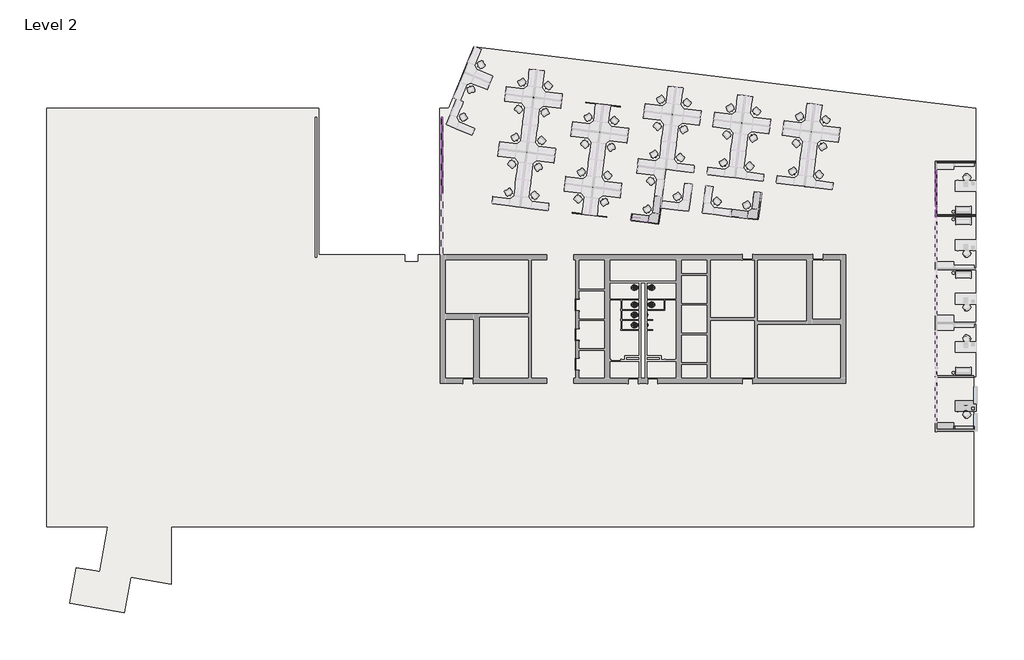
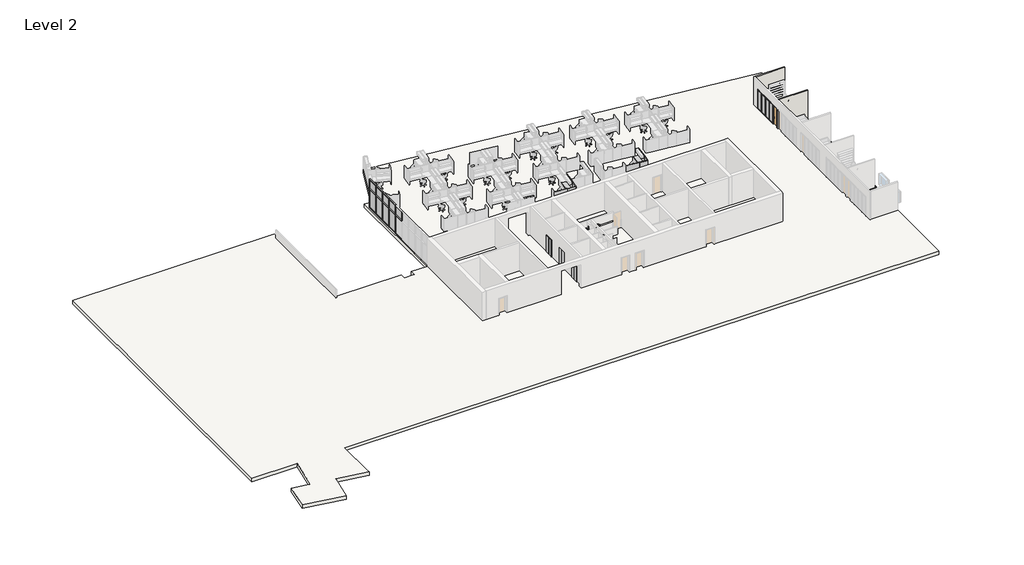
# One storey, part 4 of 7: 53 members, 18 plates, 8 flow terminals, 6 furniture elements, 3 proxies, 3 walls, 1 door, 1 slab.
"""IFC4 building model written with IfcOpenShell, lengths in millimetres."""

from ifc_helpers import new_model, si_unit, frame, origin, place, context, project, spatial, polyline, outline, extrude, faceted_brep, transform, mapped, element, save
from components import proxy_7fed659c, curtain_wall_sgl_glass_curtain_wall_sgl_glass_5192a5a3, flow_terminal_184afdea, flow_terminal_4365df9b, urinal_wall_3d_urinal_wall_3d_30f61b9e, furniture_894c625b, furniture_91cd4dc0, overhead_shelving_module_overhead_shelving_module_7dcda1b9, furniture_6d145fab, furniture_7b33082a, member_9597caa3, member_b2bde9e6, member_ee409385, member_7ffbafd8, member_47ea2df9, member_5507c937, member_0e55f5ff, member_6d48148e, member_7899ddbe, member_c64c2408, member_866a01fa, member_fbf8c6f0, member_13474e0d, member_d7472725, system_panel_glazed_f9de1280, system_panel_glazed_6896c6c0, system_panel_glazed_7f340023, system_panel_glazed_f79f5f4b, system_panel_glazed_02b69887, system_panel_glazed_e5c5d69c

model = new_model("IFC4")

# Units and contexts
model_context = context("Model", 3, world=origin())
ifc_project = project(units=[si_unit("LENGTHUNIT", "METRE", prefix="MILLI")], contexts=[model_context])

# Site, building, storey
site = spatial("IfcSite", under=ifc_project)
building = spatial("IfcBuilding", under=site)
storey = spatial("IfcBuildingStorey", under=building, Name="Level 2", Elevation=3657.6)

# Proxies
placement = place(None, origin())
proxy_shape = proxy_7fed659c(model_context)
element("IfcBuildingElementProxy", 1, Name="Elevator%20Door-Center[1] : 42\" x 84\"", ObjectType="Elevator%20Door-Center[1] : 42\" x 84\"", at=placement, inside=storey, context=model_context, shape_type="MappedRepresentation", body=[
    mapped(proxy_shape, transform((-20852.1285069, -7663.0747049, 3657.6), x_axis=(0.0, 1.0, 0.0), y_axis=(-1.0, 0.0, 0.0), z_axis=(0.0, 0.0, 1.0))),
])
element("IfcBuildingElementProxy", 2, Name="Elevator%20Door-Center[1] : 42\" x 84\"", ObjectType="Elevator%20Door-Center[1] : 42\" x 84\"", at=placement, inside=storey, context=model_context, shape_type="MappedRepresentation", body=[
    mapped(proxy_shape, transform((-20852.1285069, -10330.0747049, 3657.6), x_axis=(0.0, 1.0, 0.0), y_axis=(-1.0, 0.0, 0.0), z_axis=(0.0, 0.0, 1.0))),
])
element("IfcBuildingElementProxy", 3, Name="Elevator%20Door-Center[1] : 42\" x 84\"", ObjectType="Elevator%20Door-Center[1] : 42\" x 84\"", at=placement, inside=storey, context=model_context, shape_type="MappedRepresentation", body=[
    mapped(proxy_shape, transform((-20852.1285069, -12997.0747049, 3657.6), x_axis=(0.0, 1.0, 0.0), y_axis=(-1.0, 0.0, 0.0), z_axis=(0.0, 0.0, 1.0))),
])

# Door
curtain_wall_sgl_glass_curtain_wall_sgl_glass_shape = curtain_wall_sgl_glass_curtain_wall_sgl_glass_5192a5a3(model_context)
element("IfcDoor", 4, ObjectType="Curtain Wall Sgl Glass : Curtain Wall Sgl Glass", at=placement, inside=storey, context=model_context, shape_type="MappedRepresentation", body=[
    mapped(curtain_wall_sgl_glass_curtain_wall_sgl_glass_shape, transform((11449.2054088, 794.2100525, 3657.6), x_axis=(0.0, -1.0, 0.0), y_axis=(1.0, 0.0, 0.0), z_axis=(0.0, 0.0, 1.0))),
])

# Flow terminals
flow_terminal_shape = flow_terminal_184afdea(model_context)
element("IfcFlowTerminal", 5, ObjectType="Toilet-Commercial-Wall-3D : 15\" Seat Height", at=placement, inside=storey, context=model_context, shape_type="MappedRepresentation", body=[
    mapped(flow_terminal_shape, transform((-14687.1856498, -7335.0821954, 3657.6), x_axis=(0.0, -1.0, 0.0), y_axis=(1.0, 0.0, 0.0), z_axis=(0.0, 0.0, 1.0))),
])
element("IfcFlowTerminal", 6, ObjectType="Toilet-Commercial-Wall-3D : 15\" Seat Height", at=placement, inside=storey, context=model_context, shape_type="MappedRepresentation", body=[
    mapped(flow_terminal_shape, transform((-14687.1856498, -5795.2071954, 3657.6), x_axis=(0.0, -1.0, 0.0), y_axis=(1.0, 0.0, 0.0), z_axis=(0.0, 0.0, 1.0))),
])
flow_terminal_2_shape = flow_terminal_4365df9b(model_context)
element("IfcFlowTerminal", 7, ObjectType="Toilet-Commercial-Wall-3D : 15\" Seat Height", at=placement, inside=storey, context=model_context, shape_type="MappedRepresentation", body=[
    mapped(flow_terminal_2_shape, transform((-15195.1856498, -9163.8821954, 3657.6), x_axis=(0.0, -1.0, 0.0), y_axis=(1.0, 0.0, 0.0), z_axis=(0.0, 0.0, 1.0))),
])
element("IfcFlowTerminal", 8, ObjectType="Toilet-Commercial-Wall-3D : 15\" Seat Height", at=placement, inside=storey, context=model_context, shape_type="MappedRepresentation", body=[
    mapped(flow_terminal_2_shape, transform((-15195.1856498, -7335.0821954, 3657.6), x_axis=(0.0, -1.0, 0.0), y_axis=(1.0, 0.0, 0.0), z_axis=(0.0, 0.0, 1.0))),
])
element("IfcFlowTerminal", 9, ObjectType="Toilet-Commercial-Wall-3D : 15\" Seat Height", at=placement, inside=storey, context=model_context, shape_type="MappedRepresentation", body=[
    mapped(flow_terminal_2_shape, transform((-15195.1856498, -5795.2071954, 3657.6), x_axis=(0.0, -1.0, 0.0), y_axis=(1.0, 0.0, 0.0), z_axis=(0.0, 0.0, 1.0))),
])
element("IfcFlowTerminal", 10, ObjectType="Toilet-Commercial-Wall-3D : 15\" Seat Height", at=placement, inside=storey, context=model_context, shape_type="MappedRepresentation", body=[
    mapped(flow_terminal_2_shape, transform((-15195.1856498, -8249.4821954, 3657.6), x_axis=(0.0, -1.0, 0.0), y_axis=(1.0, 0.0, 0.0), z_axis=(0.0, 0.0, 1.0))),
])
urinal_wall_3d_urinal_wall_3d_shape = urinal_wall_3d_urinal_wall_3d_30f61b9e(model_context)
element("IfcFlowTerminal", 11, ObjectType="Urinal-Wall-3D : Urinal-Wall-3D", at=placement, inside=storey, context=model_context, shape_type="MappedRepresentation", body=[
    mapped(urinal_wall_3d_urinal_wall_3d_shape, transform((-14687.1856498, -9677.6027747, 3048.0), x_axis=(0.0, -1.0, 0.0), y_axis=(1.0, 0.0, 0.0), z_axis=(0.0, 0.0, 1.0))),
])
element("IfcFlowTerminal", 12, ObjectType="Urinal-Wall-3D : Urinal-Wall-3D", at=placement, inside=storey, context=model_context, shape_type="MappedRepresentation", body=[
    mapped(urinal_wall_3d_urinal_wall_3d_shape, transform((-14687.1856498, -8763.2027747, 3048.0), x_axis=(0.0, -1.0, 0.0), y_axis=(1.0, 0.0, 0.0), z_axis=(0.0, 0.0, 1.0))),
])

# Furniture
furniture_shape = furniture_894c625b(model_context)
element("IfcFurniture", 13, ObjectType="Credenza : 60\" x 24\"", at=placement, inside=storey, context=model_context, shape_type="MappedRepresentation", body=[
    mapped(furniture_shape, transform((12221.5111465, -18676.6574776, 3657.6), x_axis=(1.0, 0.0, 0.0), y_axis=(0.0, 1.0, 0.0), z_axis=(0.0, 0.0, 1.0))),
])
furniture_2_shape = furniture_91cd4dc0(model_context)
element("IfcFurniture", 14, ObjectType="Desk : 72\" x 36\"", at=placement, inside=storey, context=model_context, shape_type="MappedRepresentation", body=[
    mapped(furniture_2_shape, transform((13214.5054088, -16416.8858172, 3657.6), x_axis=(1.0, 0.0, 0.0), y_axis=(0.0, 1.0, 0.0), z_axis=(0.0, 0.0, 1.0))),
])
overhead_shelving_module_overhead_shelving_module_shape = overhead_shelving_module_overhead_shelving_module_7dcda1b9(model_context)
element("IfcFurniture", 15, ObjectType="Overhead Shelving Module : Overhead Shelving Module", at=placement, inside=storey, context=model_context, shape_type="MappedRepresentation", body=[
    mapped(overhead_shelving_module_overhead_shelving_module_shape, transform((-15035.7996968, -17.0868363, 3505.2), x_axis=(0.9925461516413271, -0.12186934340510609, 0.0), y_axis=(0.12186934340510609, 0.9925461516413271, 0.0), z_axis=(0.0, 0.0, 1.0))),
])
furniture_3_shape = furniture_6d145fab(model_context)
element("IfcFurniture", 16, ObjectType="Shelving : 96\" x 12\" x 84\"", at=placement, inside=storey, context=model_context, shape_type="MappedRepresentation", body=[
    mapped(furniture_3_shape, transform((13982.8554088, -19129.2771498, 3657.6), x_axis=(1.0, 0.0, 0.0), y_axis=(0.0, 1.0, 0.0), z_axis=(0.0, 0.0, 1.0))),
])
furniture_4_shape = furniture_7b33082a(model_context)
element("IfcFurniture", 17, ObjectType="Work Station Cubicle : 96\" x 96\"", at=placement, inside=storey, context=model_context, shape_type="MappedRepresentation", body=[
    mapped(furniture_4_shape, transform((-13005.6651945, -422.753661, 3657.6), x_axis=(0.12186934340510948, 0.9925461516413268, 0.0), y_axis=(-0.9925461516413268, 0.12186934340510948, 0.0), z_axis=(0.0, 0.0, 1.0))),
])
element("IfcFurniture", 18, ObjectType="Work Station Cubicle : 96\" x 96\"", at=placement, inside=storey, context=model_context, shape_type="MappedRepresentation", body=[
    mapped(furniture_4_shape, transform((-4053.6335534, -44.4423201, 3657.6), x_axis=(0.1218693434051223, 0.9925461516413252, 0.0), y_axis=(-0.9925461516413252, 0.1218693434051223, 0.0), z_axis=(0.0, 0.0, 1.0))),
])

# Members
member_shape = member_9597caa3(model_context)
element("IfcMember", 19, ObjectType="Rectangular Mullion : 2.5\" x 5\" rectangular", at=placement, inside=storey, context=model_context, shape_type="MappedRepresentation", body=[
    mapped(member_shape, transform((11449.2054088, 1195.5300525, 3721.1), x_axis=(0.0, 1.0, 0.0), y_axis=(1.0, 0.0, 0.0), z_axis=(0.0, 0.0, -1.0))),
])
element("IfcMember", 20, ObjectType="Rectangular Mullion : 2.5\" x 5\" rectangular", at=placement, inside=storey, context=model_context, shape_type="MappedRepresentation", body=[
    mapped(member_shape, transform((11449.2054088, 1998.1700525, 3721.1), x_axis=(0.0, 1.0, 0.0), y_axis=(1.0, 0.0, 0.0), z_axis=(0.0, 0.0, -1.0))),
])
element("IfcMember", 21, ObjectType="Rectangular Mullion : 2.5\" x 5\" rectangular", at=placement, inside=storey, context=model_context, shape_type="MappedRepresentation", body=[
    mapped(member_shape, transform((11449.2054088, 2800.8100525, 3721.1), x_axis=(0.0, 1.0, 0.0), y_axis=(1.0, 0.0, 0.0), z_axis=(0.0, 0.0, -1.0))),
])
element("IfcMember", 22, ObjectType="Rectangular Mullion : 2.5\" x 5\" rectangular", at=placement, inside=storey, context=model_context, shape_type="MappedRepresentation", body=[
    mapped(member_shape, transform((11449.2054088, 3603.4500525, 3721.1), x_axis=(0.0, 1.0, 0.0), y_axis=(1.0, 0.0, 0.0), z_axis=(0.0, 0.0, -1.0))),
])
element("IfcMember", 23, ObjectType="Rectangular Mullion : 2.5\" x 5\" rectangular", at=placement, inside=storey, context=model_context, shape_type="MappedRepresentation", body=[
    mapped(member_shape, transform((-33055.0142212, 7776.9452064, 3721.1), x_axis=(0.0, -1.0, 0.0), y_axis=(-1.0, 0.0, 0.0), z_axis=(0.0, 0.0, -1.0))),
])
element("IfcMember", 24, ObjectType="Rectangular Mullion : 2.5\" x 5\" rectangular", at=placement, inside=storey, context=model_context, shape_type="MappedRepresentation", body=[
    mapped(member_shape, transform((-33055.0142212, 6399.7007619, 3721.1), x_axis=(0.0, -1.0, 0.0), y_axis=(-1.0, 0.0, 0.0), z_axis=(0.0, 0.0, -1.0))),
])
element("IfcMember", 25, ObjectType="Rectangular Mullion : 2.5\" x 5\" rectangular", at=placement, inside=storey, context=model_context, shape_type="MappedRepresentation", body=[
    mapped(member_shape, transform((-33055.0142212, 5022.4563175, 3721.1), x_axis=(0.0, -1.0, 0.0), y_axis=(-1.0, 0.0, 0.0), z_axis=(0.0, 0.0, -1.0))),
])
element("IfcMember", 26, ObjectType="Rectangular Mullion : 2.5\" x 5\" rectangular", at=placement, inside=storey, context=model_context, shape_type="MappedRepresentation", body=[
    mapped(member_shape, transform((-33055.0142212, 3645.211873, 3721.1), x_axis=(0.0, -1.0, 0.0), y_axis=(-1.0, 0.0, 0.0), z_axis=(0.0, 0.0, -1.0))),
])
member_2_shape = member_b2bde9e6(model_context)
element("IfcMember", 27, ObjectType="Rectangular Mullion : 2.5\" x 5\" rectangular", at=placement, inside=storey, context=model_context, shape_type="MappedRepresentation", body=[
    mapped(member_2_shape, transform((11449.2054088, 4437.8400525, 3721.1), x_axis=(0.0, 1.0, 0.0), y_axis=(1.0, 0.0, 0.0), z_axis=(0.0, 0.0, -1.0))),
])
element("IfcMember", 28, ObjectType="Rectangular Mullion : 2.5\" x 5\" rectangular", at=placement, inside=storey, context=model_context, shape_type="MappedRepresentation", body=[
    mapped(member_2_shape, transform((-33055.0142212, 9154.1896508, 6096.0), x_axis=(0.0, 1.0, 0.0), y_axis=(-1.0, 0.0, 0.0), z_axis=(0.0, 0.0, 1.0))),
])
member_3_shape = member_ee409385(model_context)
element("IfcMember", 29, ObjectType="Rectangular Mullion : 2.5\" x 5\" rectangular", at=placement, inside=storey, context=model_context, shape_type="MappedRepresentation", body=[
    mapped(member_3_shape, transform((11449.2054088, 361.1400525, 6096.0), x_axis=(0.0, -1.0, 0.0), y_axis=(1.0, 0.0, 0.0), z_axis=(0.0, 0.0, 1.0))),
])
element("IfcMember", 30, ObjectType="Rectangular Mullion : 2.5\" x 5\" rectangular", at=placement, inside=storey, context=model_context, shape_type="MappedRepresentation", body=[
    mapped(member_3_shape, transform((11449.2054088, 221.4400525, 6096.0), x_axis=(0.0, 1.0, 0.0), y_axis=(-1.0, 0.0, 0.0), z_axis=(0.0, 0.0, 1.0))),
])
member_4_shape = member_7ffbafd8(model_context)
element("IfcMember", 31, ObjectType="Rectangular Mullion : 2.5\" x 5\" rectangular", at=placement, inside=storey, context=model_context, shape_type="MappedRepresentation", body=[
    mapped(member_4_shape, transform((11449.2054088, 4437.8400525, 6197.6), x_axis=(0.0, 0.0, 1.0), y_axis=(1.0, 0.0, 0.0), z_axis=(0.0, 1.0, 0.0))),
])
element("IfcMember", 32, ObjectType="Rectangular Mullion : 2.5\" x 5\" rectangular", at=placement, inside=storey, context=model_context, shape_type="MappedRepresentation", body=[
    mapped(member_4_shape, transform((11449.2054088, 1195.5300525, 6197.6), x_axis=(0.0, 0.0, 1.0), y_axis=(1.0, 0.0, 0.0), z_axis=(0.0, 1.0, 0.0))),
])
element("IfcMember", 33, ObjectType="Rectangular Mullion : 2.5\" x 5\" rectangular", at=placement, inside=storey, context=model_context, shape_type="MappedRepresentation", body=[
    mapped(member_4_shape, transform((11449.2054088, 1163.7800525, 3657.6), x_axis=(0.0, 0.0, -1.0), y_axis=(1.0, 0.0, 0.0), z_axis=(0.0, -1.0, 0.0))),
])
member_5_shape = member_47ea2df9(model_context)
element("IfcMember", 34, ObjectType="Rectangular Mullion : 2.5\" x 5\" rectangular", at=placement, inside=storey, context=model_context, shape_type="MappedRepresentation", body=[
    mapped(member_5_shape, transform((11449.2054088, 1998.1700525, 6096.0), x_axis=(0.0, 0.0, 1.0), y_axis=(1.0, 0.0, 0.0), z_axis=(0.0, 1.0, 0.0))),
])
element("IfcMember", 35, ObjectType="Rectangular Mullion : 2.5\" x 5\" rectangular", at=placement, inside=storey, context=model_context, shape_type="MappedRepresentation", body=[
    mapped(member_5_shape, transform((11449.2054088, 2800.8100525, 6096.0), x_axis=(0.0, 0.0, 1.0), y_axis=(1.0, 0.0, 0.0), z_axis=(0.0, 1.0, 0.0))),
])
element("IfcMember", 36, ObjectType="Rectangular Mullion : 2.5\" x 5\" rectangular", at=placement, inside=storey, context=model_context, shape_type="MappedRepresentation", body=[
    mapped(member_5_shape, transform((11449.2054088, 3603.4500525, 6096.0), x_axis=(0.0, 0.0, 1.0), y_axis=(1.0, 0.0, 0.0), z_axis=(0.0, 1.0, 0.0))),
])
member_6_shape = member_5507c937(model_context)
element("IfcMember", 37, ObjectType="Rectangular Mullion : 2.5\" x 5\" rectangular", at=placement, inside=storey, context=model_context, shape_type="MappedRepresentation", body=[
    mapped(member_6_shape, transform((11449.2054088, 1998.1700525, 6197.6), x_axis=(0.0, 0.0, 1.0), y_axis=(1.0, 0.0, 0.0), z_axis=(0.0, 1.0, 0.0))),
])
element("IfcMember", 38, ObjectType="Rectangular Mullion : 2.5\" x 5\" rectangular", at=placement, inside=storey, context=model_context, shape_type="MappedRepresentation", body=[
    mapped(member_6_shape, transform((11449.2054088, 2800.8100525, 6197.6), x_axis=(0.0, 0.0, 1.0), y_axis=(1.0, 0.0, 0.0), z_axis=(0.0, 1.0, 0.0))),
])
element("IfcMember", 39, ObjectType="Rectangular Mullion : 2.5\" x 5\" rectangular", at=placement, inside=storey, context=model_context, shape_type="MappedRepresentation", body=[
    mapped(member_6_shape, transform((11449.2054088, 3603.4500525, 6197.6), x_axis=(0.0, 0.0, 1.0), y_axis=(1.0, 0.0, 0.0), z_axis=(0.0, 1.0, 0.0))),
])
element("IfcMember", 40, ObjectType="Rectangular Mullion : 2.5\" x 5\" rectangular", at=placement, inside=storey, context=model_context, shape_type="MappedRepresentation", body=[
    mapped(member_6_shape, transform((11449.2054088, 1998.1700525, 3657.6), x_axis=(0.0, 0.0, -1.0), y_axis=(1.0, 0.0, 0.0), z_axis=(0.0, -1.0, 0.0))),
])
element("IfcMember", 41, ObjectType="Rectangular Mullion : 2.5\" x 5\" rectangular", at=placement, inside=storey, context=model_context, shape_type="MappedRepresentation", body=[
    mapped(member_6_shape, transform((11449.2054088, 2800.8100525, 3657.6), x_axis=(0.0, 0.0, -1.0), y_axis=(1.0, 0.0, 0.0), z_axis=(0.0, -1.0, 0.0))),
])
element("IfcMember", 42, ObjectType="Rectangular Mullion : 2.5\" x 5\" rectangular", at=placement, inside=storey, context=model_context, shape_type="MappedRepresentation", body=[
    mapped(member_4_shape, transform((11449.2054088, 3603.4500525, 3657.6), x_axis=(0.0, 0.0, -1.0), y_axis=(1.0, 0.0, 0.0), z_axis=(0.0, -1.0, 0.0))),
])
member_7_shape = member_0e55f5ff(model_context)
element("IfcMember", 43, ObjectType="Rectangular Mullion : 2.5\" x 5\" rectangular", at=placement, inside=storey, context=model_context, shape_type="MappedRepresentation", body=[
    mapped(member_7_shape, transform((11449.2054088, 4374.3400525, 6096.0), x_axis=(0.0, 0.0, 1.0), y_axis=(1.0, 0.0, 0.0), z_axis=(0.0, 1.0, 0.0))),
])
element("IfcMember", 44, ObjectType="Rectangular Mullion : 2.5\" x 5\" rectangular", at=placement, inside=storey, context=model_context, shape_type="MappedRepresentation", body=[
    mapped(member_7_shape, transform((11449.2054088, 1195.5300525, 6096.0), x_axis=(0.0, 0.0, 1.0), y_axis=(1.0, 0.0, 0.0), z_axis=(0.0, 1.0, 0.0))),
])
member_8_shape = member_6d48148e(model_context)
element("IfcMember", 45, ObjectType="Rectangular Mullion : 2.5\" x 5\" rectangular", at=placement, inside=storey, context=model_context, shape_type="MappedRepresentation", body=[
    mapped(member_8_shape, transform((11449.2054088, 1195.5300525, 6127.75), x_axis=(0.0, 1.0, 0.0), y_axis=(1.0, 0.0, 0.0), z_axis=(0.0, 0.0, -1.0))),
])
element("IfcMember", 46, ObjectType="Rectangular Mullion : 2.5\" x 5\" rectangular", at=placement, inside=storey, context=model_context, shape_type="MappedRepresentation", body=[
    mapped(member_8_shape, transform((11449.2054088, 1998.1700525, 6127.75), x_axis=(0.0, 1.0, 0.0), y_axis=(1.0, 0.0, 0.0), z_axis=(0.0, 0.0, -1.0))),
])
element("IfcMember", 47, ObjectType="Rectangular Mullion : 2.5\" x 5\" rectangular", at=placement, inside=storey, context=model_context, shape_type="MappedRepresentation", body=[
    mapped(member_8_shape, transform((11449.2054088, 2800.8100525, 6127.75), x_axis=(0.0, 1.0, 0.0), y_axis=(1.0, 0.0, 0.0), z_axis=(0.0, 0.0, -1.0))),
])
element("IfcMember", 48, ObjectType="Rectangular Mullion : 2.5\" x 5\" rectangular", at=placement, inside=storey, context=model_context, shape_type="MappedRepresentation", body=[
    mapped(member_8_shape, transform((11449.2054088, 3603.4500525, 6127.75), x_axis=(0.0, 1.0, 0.0), y_axis=(1.0, 0.0, 0.0), z_axis=(0.0, 0.0, -1.0))),
])
member_9_shape = member_7899ddbe(model_context)
element("IfcMember", 49, ObjectType="Rectangular Mullion : 2.5\" x 5\" rectangular", at=placement, inside=storey, context=model_context, shape_type="MappedRepresentation", body=[
    mapped(member_9_shape, transform((11449.2054088, 4437.8400525, 6096.0), x_axis=(0.0, 1.0, 0.0), y_axis=(1.0, 0.0, 0.0), z_axis=(0.0, 0.0, -1.0))),
])
element("IfcMember", 50, ObjectType="Rectangular Mullion : 2.5\" x 5\" rectangular", at=placement, inside=storey, context=model_context, shape_type="MappedRepresentation", body=[
    mapped(member_9_shape, transform((11449.2054088, 361.1400525, 6134.1), x_axis=(0.0, -1.0, 0.0), y_axis=(1.0, 0.0, 0.0), z_axis=(0.0, 0.0, 1.0))),
])
element("IfcMember", 51, ObjectType="Rectangular Mullion : 2.5\" x 5\" rectangular", at=placement, inside=storey, context=model_context, shape_type="MappedRepresentation", body=[
    mapped(member_9_shape, transform((11449.2054088, 221.4400525, 6134.1), x_axis=(0.0, 1.0, 0.0), y_axis=(-1.0, 0.0, 0.0), z_axis=(0.0, 0.0, 1.0))),
])
member_10_shape = member_c64c2408(model_context)
element("IfcMember", 52, ObjectType="Rectangular Mullion : 2.5\" x 5\" rectangular", at=placement, inside=storey, context=model_context, shape_type="MappedRepresentation", body=[
    mapped(member_10_shape, transform((-33055.0142212, 9154.1896508, 3657.6), x_axis=(0.0, 0.0, -1.0), y_axis=(-1.0, 0.0, 0.0), z_axis=(0.0, 1.0, 0.0))),
])
element("IfcMember", 53, ObjectType="Rectangular Mullion : 2.5\" x 5\" rectangular", at=placement, inside=storey, context=model_context, shape_type="MappedRepresentation", body=[
    mapped(member_10_shape, transform((-33055.0142212, 7776.9452064, 7315.2), x_axis=(0.0, 0.0, 1.0), y_axis=(-1.0, 0.0, 0.0), z_axis=(0.0, -1.0, 0.0))),
])
element("IfcMember", 54, ObjectType="Rectangular Mullion : 2.5\" x 5\" rectangular", at=placement, inside=storey, context=model_context, shape_type="MappedRepresentation", body=[
    mapped(member_10_shape, transform((-33055.0142212, 6399.7007619, 7315.2), x_axis=(0.0, 0.0, 1.0), y_axis=(-1.0, 0.0, 0.0), z_axis=(0.0, -1.0, 0.0))),
])
element("IfcMember", 55, ObjectType="Rectangular Mullion : 2.5\" x 5\" rectangular", at=placement, inside=storey, context=model_context, shape_type="MappedRepresentation", body=[
    mapped(member_10_shape, transform((-33055.0142212, 5022.4563175, 7315.2), x_axis=(0.0, 0.0, 1.0), y_axis=(-1.0, 0.0, 0.0), z_axis=(0.0, -1.0, 0.0))),
])
element("IfcMember", 56, ObjectType="Rectangular Mullion : 2.5\" x 5\" rectangular", at=placement, inside=storey, context=model_context, shape_type="MappedRepresentation", body=[
    mapped(member_10_shape, transform((-33055.0142212, 3645.211873, 7315.2), x_axis=(0.0, 0.0, 1.0), y_axis=(-1.0, 0.0, 0.0), z_axis=(0.0, -1.0, 0.0))),
])
element("IfcMember", 57, ObjectType="Rectangular Mullion : 2.5\" x 5\" rectangular", at=placement, inside=storey, context=model_context, shape_type="MappedRepresentation", body=[
    mapped(member_10_shape, transform((-33055.0142212, 7776.9452064, 3657.6), x_axis=(0.0, 0.0, -1.0), y_axis=(-1.0, 0.0, 0.0), z_axis=(0.0, 1.0, 0.0))),
])
element("IfcMember", 58, ObjectType="Rectangular Mullion : 2.5\" x 5\" rectangular", at=placement, inside=storey, context=model_context, shape_type="MappedRepresentation", body=[
    mapped(member_10_shape, transform((-33055.0142212, 6399.7007619, 3657.6), x_axis=(0.0, 0.0, -1.0), y_axis=(-1.0, 0.0, 0.0), z_axis=(0.0, 1.0, 0.0))),
])
element("IfcMember", 59, ObjectType="Rectangular Mullion : 2.5\" x 5\" rectangular", at=placement, inside=storey, context=model_context, shape_type="MappedRepresentation", body=[
    mapped(member_10_shape, transform((-33055.0142212, 5022.4563175, 3657.6), x_axis=(0.0, 0.0, -1.0), y_axis=(-1.0, 0.0, 0.0), z_axis=(0.0, 1.0, 0.0))),
])
element("IfcMember", 60, ObjectType="Rectangular Mullion : 2.5\" x 5\" rectangular", at=placement, inside=storey, context=model_context, shape_type="MappedRepresentation", body=[
    mapped(member_10_shape, transform((-33055.0142212, 3645.211873, 3657.6), x_axis=(0.0, 0.0, -1.0), y_axis=(-1.0, 0.0, 0.0), z_axis=(0.0, 1.0, 0.0))),
])
member_11_shape = member_866a01fa(model_context)
element("IfcMember", 61, ObjectType="Rectangular Mullion : 2.5\" x 5\" rectangular", at=placement, inside=storey, context=model_context, shape_type="MappedRepresentation", body=[
    mapped(member_11_shape, transform((-33055.0142212, 7776.9452064, 6127.75), x_axis=(0.0, -1.0, 0.0), y_axis=(-1.0, 0.0, 0.0), z_axis=(0.0, 0.0, -1.0))),
])
element("IfcMember", 62, ObjectType="Rectangular Mullion : 2.5\" x 5\" rectangular", at=placement, inside=storey, context=model_context, shape_type="MappedRepresentation", body=[
    mapped(member_11_shape, transform((-33055.0142212, 6399.7007619, 6127.75), x_axis=(0.0, -1.0, 0.0), y_axis=(-1.0, 0.0, 0.0), z_axis=(0.0, 0.0, -1.0))),
])
element("IfcMember", 63, ObjectType="Rectangular Mullion : 2.5\" x 5\" rectangular", at=placement, inside=storey, context=model_context, shape_type="MappedRepresentation", body=[
    mapped(member_11_shape, transform((-33055.0142212, 5022.4563175, 6127.75), x_axis=(0.0, -1.0, 0.0), y_axis=(-1.0, 0.0, 0.0), z_axis=(0.0, 0.0, -1.0))),
])
element("IfcMember", 64, ObjectType="Rectangular Mullion : 2.5\" x 5\" rectangular", at=placement, inside=storey, context=model_context, shape_type="MappedRepresentation", body=[
    mapped(member_11_shape, transform((-33055.0142212, 3645.211873, 6127.75), x_axis=(0.0, -1.0, 0.0), y_axis=(-1.0, 0.0, 0.0), z_axis=(0.0, 0.0, -1.0))),
])
element("IfcMember", 65, ObjectType="Rectangular Mullion : 2.5\" x 5\" rectangular", at=placement, inside=storey, context=model_context, shape_type="MappedRepresentation", body=[
    mapped(member_11_shape, transform((-33055.0142212, 2267.9674286, 6127.75), x_axis=(0.0, -1.0, 0.0), y_axis=(-1.0, 0.0, 0.0), z_axis=(0.0, 0.0, -1.0))),
])
member_12_shape = member_fbf8c6f0(model_context)
element("IfcMember", 66, ObjectType="Rectangular Mullion : 2.5\" x 5\" rectangular", at=placement, inside=storey, context=model_context, shape_type="MappedRepresentation", body=[
    mapped(member_12_shape, transform((-33055.0142212, 7776.9452064, 6096.0), x_axis=(0.0, 0.0, 1.0), y_axis=(-1.0, 0.0, 0.0), z_axis=(0.0, -1.0, 0.0))),
])
member_13_shape = member_13474e0d(model_context)
element("IfcMember", 67, ObjectType="Rectangular Mullion : 2.5\" x 5\" rectangular", at=placement, inside=storey, context=model_context, shape_type="MappedRepresentation", body=[
    mapped(member_13_shape, transform((-33055.0142212, 6399.7007619, 6096.0), x_axis=(0.0, 0.0, 1.0), y_axis=(-1.0, 0.0, 0.0), z_axis=(0.0, -1.0, 0.0))),
])
element("IfcMember", 68, ObjectType="Rectangular Mullion : 2.5\" x 5\" rectangular", at=placement, inside=storey, context=model_context, shape_type="MappedRepresentation", body=[
    mapped(member_13_shape, transform((-33055.0142212, 5022.4563175, 6096.0), x_axis=(0.0, 0.0, 1.0), y_axis=(-1.0, 0.0, 0.0), z_axis=(0.0, -1.0, 0.0))),
])
element("IfcMember", 69, ObjectType="Rectangular Mullion : 2.5\" x 5\" rectangular", at=placement, inside=storey, context=model_context, shape_type="MappedRepresentation", body=[
    mapped(member_13_shape, transform((-33055.0142212, 3645.211873, 6096.0), x_axis=(0.0, 0.0, 1.0), y_axis=(-1.0, 0.0, 0.0), z_axis=(0.0, -1.0, 0.0))),
])
element("IfcMember", 70, ObjectType="Rectangular Mullion : 2.5\" x 5\" rectangular", at=placement, inside=storey, context=model_context, shape_type="MappedRepresentation", body=[
    mapped(member_13_shape, transform((-33055.0142212, 2267.9674286, 6096.0), x_axis=(0.0, 0.0, 1.0), y_axis=(-1.0, 0.0, 0.0), z_axis=(0.0, -1.0, 0.0))),
])
member_14_shape = member_d7472725(model_context)
element("IfcMember", 71, ObjectType="Rectangular Mullion : 2.5\" x 5\" rectangular", at=placement, inside=storey, context=model_context, shape_type="MappedRepresentation", body=[
    mapped(member_14_shape, transform((-33055.0142212, 9154.1896508, 7251.7), x_axis=(0.0, 1.0, 0.0), y_axis=(-1.0, 0.0, 0.0), z_axis=(0.0, 0.0, 1.0))),
])

# Plates
system_panel_glazed_shape = system_panel_glazed_f9de1280(model_context)
element("IfcPlate", 72, ObjectType="System Panel : Glazed", at=placement, inside=storey, context=model_context, shape_type="MappedRepresentation", body=[
    mapped(system_panel_glazed_shape, transform((11449.2054088, 1596.8500525, 3721.1), x_axis=(0.0, 1.0, 0.0), y_axis=(-1.0, 0.0, 0.0), z_axis=(0.0, 0.0, 1.0))),
])
element("IfcPlate", 73, ObjectType="System Panel : Glazed", at=placement, inside=storey, context=model_context, shape_type="MappedRepresentation", body=[
    mapped(system_panel_glazed_shape, transform((11449.2054088, 2399.4900525, 3721.1), x_axis=(0.0, 1.0, 0.0), y_axis=(-1.0, 0.0, 0.0), z_axis=(0.0, 0.0, 1.0))),
])
element("IfcPlate", 74, ObjectType="System Panel : Glazed", at=placement, inside=storey, context=model_context, shape_type="MappedRepresentation", body=[
    mapped(system_panel_glazed_shape, transform((11449.2054088, 3202.1300525, 3721.1), x_axis=(0.0, 1.0, 0.0), y_axis=(-1.0, 0.0, 0.0), z_axis=(0.0, 0.0, 1.0))),
])
element("IfcPlate", 75, ObjectType="System Panel : Glazed", at=placement, inside=storey, context=model_context, shape_type="MappedRepresentation", body=[
    mapped(system_panel_glazed_shape, transform((11449.2054088, 4004.7700525, 3721.1), x_axis=(0.0, 1.0, 0.0), y_axis=(-1.0, 0.0, 0.0), z_axis=(0.0, 0.0, 1.0))),
])
system_panel_glazed_2_shape = system_panel_glazed_6896c6c0(model_context)
element("IfcPlate", 76, ObjectType="System Panel : Glazed", at=placement, inside=storey, context=model_context, shape_type="MappedRepresentation", body=[
    mapped(system_panel_glazed_2_shape, transform((11449.2054088, 794.2100525, 6127.75), x_axis=(0.0, 1.0, 0.0), y_axis=(-1.0, 0.0, 0.0), z_axis=(0.0, 0.0, 1.0))),
])
element("IfcPlate", 77, ObjectType="System Panel : Glazed", at=placement, inside=storey, context=model_context, shape_type="MappedRepresentation", body=[
    mapped(system_panel_glazed_2_shape, transform((11449.2054088, 1596.8500525, 6127.75), x_axis=(0.0, 1.0, 0.0), y_axis=(-1.0, 0.0, 0.0), z_axis=(0.0, 0.0, 1.0))),
])
element("IfcPlate", 78, ObjectType="System Panel : Glazed", at=placement, inside=storey, context=model_context, shape_type="MappedRepresentation", body=[
    mapped(system_panel_glazed_2_shape, transform((11449.2054088, 2399.4900525, 6127.75), x_axis=(0.0, 1.0, 0.0), y_axis=(-1.0, 0.0, 0.0), z_axis=(0.0, 0.0, 1.0))),
])
element("IfcPlate", 79, ObjectType="System Panel : Glazed", at=placement, inside=storey, context=model_context, shape_type="MappedRepresentation", body=[
    mapped(system_panel_glazed_2_shape, transform((11449.2054088, 3202.1300525, 6127.75), x_axis=(0.0, 1.0, 0.0), y_axis=(-1.0, 0.0, 0.0), z_axis=(0.0, 0.0, 1.0))),
])
element("IfcPlate", 80, ObjectType="System Panel : Glazed", at=placement, inside=storey, context=model_context, shape_type="MappedRepresentation", body=[
    mapped(system_panel_glazed_2_shape, transform((11449.2054088, 4004.7700525, 6127.75), x_axis=(0.0, 1.0, 0.0), y_axis=(-1.0, 0.0, 0.0), z_axis=(0.0, 0.0, 1.0))),
])
system_panel_glazed_3_shape = system_panel_glazed_7f340023(model_context)
element("IfcPlate", 81, ObjectType="System Panel : Glazed", at=placement, inside=storey, context=model_context, shape_type="MappedRepresentation", body=[
    mapped(system_panel_glazed_3_shape, transform((-33055.0142212, 8449.6924286, 3721.1), x_axis=(0.0, -1.0, 0.0), y_axis=(1.0, 0.0, 0.0), z_axis=(0.0, 0.0, 1.0))),
])
system_panel_glazed_4_shape = system_panel_glazed_f79f5f4b(model_context)
element("IfcPlate", 82, ObjectType="System Panel : Glazed", at=placement, inside=storey, context=model_context, shape_type="MappedRepresentation", body=[
    mapped(system_panel_glazed_4_shape, transform((-33055.0142212, 7088.3229841, 3721.1), x_axis=(0.0, -1.0, 0.0), y_axis=(1.0, 0.0, 0.0), z_axis=(0.0, 0.0, 1.0))),
])
element("IfcPlate", 83, ObjectType="System Panel : Glazed", at=placement, inside=storey, context=model_context, shape_type="MappedRepresentation", body=[
    mapped(system_panel_glazed_4_shape, transform((-33055.0142212, 5711.0785397, 3721.1), x_axis=(0.0, -1.0, 0.0), y_axis=(1.0, 0.0, 0.0), z_axis=(0.0, 0.0, 1.0))),
])
element("IfcPlate", 84, ObjectType="System Panel : Glazed", at=placement, inside=storey, context=model_context, shape_type="MappedRepresentation", body=[
    mapped(system_panel_glazed_4_shape, transform((-33055.0142212, 4333.8340952, 3721.1), x_axis=(0.0, -1.0, 0.0), y_axis=(1.0, 0.0, 0.0), z_axis=(0.0, 0.0, 1.0))),
])
system_panel_glazed_5_shape = system_panel_glazed_02b69887(model_context)
element("IfcPlate", 85, ObjectType="System Panel : Glazed", at=placement, inside=storey, context=model_context, shape_type="MappedRepresentation", body=[
    mapped(system_panel_glazed_5_shape, transform((-33055.0142212, 8449.6924286, 6127.75), x_axis=(0.0, -1.0, 0.0), y_axis=(1.0, 0.0, 0.0), z_axis=(0.0, 0.0, 1.0))),
])
system_panel_glazed_6_shape = system_panel_glazed_e5c5d69c(model_context)
element("IfcPlate", 86, ObjectType="System Panel : Glazed", at=placement, inside=storey, context=model_context, shape_type="MappedRepresentation", body=[
    mapped(system_panel_glazed_6_shape, transform((-33055.0142212, 7088.3229841, 6127.75), x_axis=(0.0, -1.0, 0.0), y_axis=(1.0, 0.0, 0.0), z_axis=(0.0, 0.0, 1.0))),
])
element("IfcPlate", 87, ObjectType="System Panel : Glazed", at=placement, inside=storey, context=model_context, shape_type="MappedRepresentation", body=[
    mapped(system_panel_glazed_6_shape, transform((-33055.0142212, 5711.0785397, 6127.75), x_axis=(0.0, -1.0, 0.0), y_axis=(1.0, 0.0, 0.0), z_axis=(0.0, 0.0, 1.0))),
])
element("IfcPlate", 88, ObjectType="System Panel : Glazed", at=placement, inside=storey, context=model_context, shape_type="MappedRepresentation", body=[
    mapped(system_panel_glazed_6_shape, transform((-33055.0142212, 4333.8340952, 6127.75), x_axis=(0.0, -1.0, 0.0), y_axis=(1.0, 0.0, 0.0), z_axis=(0.0, 0.0, 1.0))),
])
element("IfcPlate", 89, ObjectType="System Panel : Glazed", at=placement, inside=storey, context=model_context, shape_type="MappedRepresentation", body=[
    mapped(system_panel_glazed_6_shape, transform((-33055.0142212, 2956.5896508, 6127.75), x_axis=(0.0, -1.0, 0.0), y_axis=(1.0, 0.0, 0.0), z_axis=(0.0, 0.0, 1.0))),
])

# Slab
element("IfcSlab", 90, ObjectType="Steel Bar Joist 14\" - Concrete", at=placement, inside=storey, context=model_context, shape_type="Brep", body=[
    faceted_brep([(-57415.8125003, -27735.220667, 3222.625), (-57415.8125003, -32574.9459603, 3222.625), (-57415.8125003, -32919.911766, 3222.625), (-57428.5125003, -32917.6724134, 3222.625), (-61087.9334678, -32272.417763, 3222.625), (-61655.8064208, -35492.9853173, 3222.625), (-61658.0117526, -35505.4923758, 3222.625), (-66538.8913179, -34644.8616188, 3222.625), (-66551.3983764, -34642.656287, 3222.625), (-65983.5254234, -31422.0887327, 3222.625), (-65981.3200915, -31409.5816742, 3222.625), (-64214.6980836, -31721.084799, 3222.625), (-63880.1342697, -31780.0774261, 3222.625), (-63168.1978494, -27742.4853492, 3222.625), (-63513.1636551, -27742.4853492, 3222.625), (-68660.7599961, -27742.4853492, 3222.625), (-68660.7599961, -27729.7853492, 3222.625), (-68660.7599961, 9954.2896508, 3222.625), (-44161.1642212, 9954.2896508, 3222.625), (-44161.1642212, -3241.0103492, 3222.625), (-36382.778433, -3241.0103492, 3222.625), (-36382.778433, -3850.6103492, 3222.625), (-35163.578433, -3850.6103492, 3222.625), (-35163.578433, -3241.0103492, 3222.625), (-33226.4642212, -3241.0103492, 3222.625), (-33226.4642212, 9954.2896508, 3222.625), (-32787.8895294, 9954.2896508, 3222.625), (-32421.4843139, 9954.2896508, 3222.625), (-30175.817983, 15512.5088637, 3222.625), (-30162.7679787, 15510.9065247, 3222.625), (15043.3054088, 9960.2986536, 3222.625), (15043.3054088, -14142.3728492, 3222.625), (15043.3054088, -14218.4266737, 3222.625), (14830.5804088, -14218.4266737, 3222.625), (14830.5804088, -27729.7853492, 3222.625), (14830.5804088, -27735.220667, 3222.625), (-57076.0875003, -27735.220667, 3222.625), (-57415.8125003, -27735.220667, 3657.6), (-57076.0875003, -27735.220667, 3657.6), (14830.5804088, -27735.220667, 3657.6), (14830.5804088, -27729.7853492, 3657.6), (14830.5804088, -14218.4266737, 3657.6), (15043.3054088, -14218.4266737, 3657.6), (15043.3054088, -14142.3728492, 3657.6), (15043.3054088, 9960.2986536, 3657.6), (-30162.7679787, 15510.9065247, 3657.6), (-30175.817983, 15512.5088637, 3657.6), (-32421.4843139, 9954.2896508, 3657.6), (-32787.8895294, 9954.2896508, 3657.6), (-33226.4642212, 9954.2896508, 3657.6), (-33226.4642212, -3241.0103492, 3657.6), (-35163.578433, -3241.0103492, 3657.6), (-35163.578433, -3850.6103492, 3657.6), (-36382.778433, -3850.6103492, 3657.6), (-36382.778433, -3241.0103492, 3657.6), (-44161.1642212, -3241.0103492, 3657.6), (-44161.1642212, 9954.2896508, 3657.6), (-68660.7599961, 9954.2896508, 3657.6), (-68660.7599961, -27729.7853492, 3657.6), (-68660.7599961, -27742.4853492, 3657.6), (-63513.1636551, -27742.4853492, 3657.6), (-63168.1978494, -27742.4853492, 3657.6), (-63880.1342697, -31780.0774261, 3657.6), (-64214.6980836, -31721.084799, 3657.6), (-65981.3200915, -31409.5816742, 3657.6), (-65983.5254234, -31422.0887327, 3657.6), (-66551.3983764, -34642.656287, 3657.6), (-66538.8913179, -34644.8616188, 3657.6), (-61658.0117526, -35505.4923758, 3657.6), (-61655.8064208, -35492.9853173, 3657.6), (-61087.9334678, -32272.417763, 3657.6), (-57428.5125003, -32917.6724134, 3657.6), (-57415.8125003, -32919.911766, 3657.6), (-57415.8125003, -32574.9459603, 3657.6)], [[[0, 1, 2, 3, 4, 5, 6, 7, 8, 9, 10, 11, 12, 13, 14, 15, 16, 17, 18, 19, 20, 21, 22, 23, 24, 25, 26, 27, 28, 29, 30, 31, 32, 33, 34, 35, 36]], [[37, 38, 39, 40, 41, 42, 43, 44, 45, 46, 47, 48, 49, 50, 51, 52, 53, 54, 55, 56, 57, 58, 59, 60, 61, 62, 63, 64, 65, 66, 67, 68, 69, 70, 71, 72, 73]], [[17, 16, 15, 59, 58, 57]], [[32, 31, 30, 44, 43, 42]], [[0, 36, 35, 39, 38, 37]], [[2, 1, 0, 37, 73, 72]], [[4, 3, 2, 72, 71, 70]], [[6, 5, 4, 70, 69, 68]], [[8, 7, 6, 68, 67, 66]], [[10, 9, 8, 66, 65, 64]], [[12, 11, 10, 64, 63, 62]], [[13, 12, 62, 61]], [[15, 14, 13, 61, 60, 59]], [[28, 27, 47, 46]], [[30, 29, 28, 46, 45, 44]], [[33, 32, 42, 41]], [[35, 34, 33, 41, 40, 39]], [[18, 17, 57, 56]], [[19, 18, 56, 55]], [[24, 23, 51, 50]], [[25, 24, 50, 49]], [[27, 26, 25, 49, 48, 47]], [[20, 19, 55, 54]], [[21, 20, 54, 53]], [[22, 21, 53, 52]], [[23, 22, 52, 51]]]),
])

# Walls
element("IfcWall", 91, ObjectType="Interior - 5 1/2\" Partition (1-hr)", at=placement, inside=storey, context=model_context, shape_type="SweptSolid", body=[
    extrude(outline(polyline([(11519.0554088, 5195.6443531), (15043.3054088, 5195.6443531), (15043.3054088, 5055.9443531), (11519.0554088, 5055.9443531), (11519.0554088, 5195.6443531)])), frame((0.0, 0.0, 3657.6), z_axis=(0.0, 0.0, 1.0), x_axis=(1.0, 0.0, 0.0)), (0.0, 0.0, 1.0), 3657.6),
])
element("IfcWall", 92, ObjectType="Interior - 5 1/2\" Partition (1-hr)", at=placement, inside=storey, context=model_context, shape_type="SweptSolid", body=[
    extrude(outline(polyline([(11519.0554088, 361.1400525), (15043.3054088, 361.1400525), (15043.3054088, 221.4400525), (11519.0554088, 221.4400525), (11519.0554088, 361.1400525)])), frame((0.0, 0.0, 3657.6), z_axis=(0.0, 0.0, 1.0), x_axis=(1.0, 0.0, 0.0)), (0.0, 0.0, 1.0), 3657.6),
])
element("IfcWall", 93, ObjectType="Interior - 5 1/2\" Partition (1-hr)", at=placement, inside=storey, context=model_context, shape_type="SweptSolid", body=[
    extrude(outline(polyline([(11519.0554088, 361.1400525), (15043.3054088, 361.1400525), (15043.3054088, 221.4400525), (11519.0554088, 221.4400525), (11519.0554088, 361.1400525)])), frame((0.0, 0.0, 3657.6), z_axis=(0.0, 0.0, 1.0), x_axis=(1.0, 0.0, 0.0)), (0.0, 0.0, 1.0), 3657.6),
])

save(model, "model.ifc")
